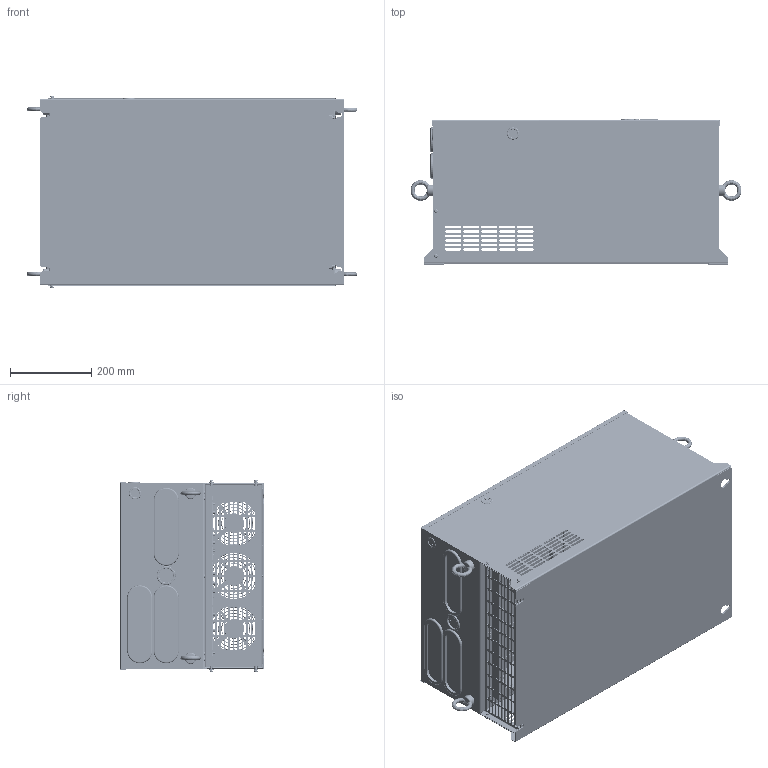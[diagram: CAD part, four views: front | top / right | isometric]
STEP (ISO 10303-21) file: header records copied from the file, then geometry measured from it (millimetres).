
FILE_DESCRIPTION((''),'2;1');
FILE_NAME('308D_ASM','2025-09-26T14:18:10',('L90915'),(''),'CREO PARAMETRIC BY PTC INC, 2018190','CREO PARAMETRIC BY PTC INC, 2018190','');
FILE_SCHEMA(('CONFIG_CONTROL_DESIGN'));
Products named in the file (67): 308MS69; 308MS97; 308MS98; 308MS72; 308MS73; 308MS75; 308MS76; 308MS79; 308MS80; 308MS81; M12; MAODING; M12-LIUJIAO; 308MS101; 308MA34_ASM; 308MS83; 308MS84; 306MS17; 308MS83-B; 308MA37-B_ASM; 308MS86; 308MS86-B; 308MA38-B_ASM; 308MS82; 308MS78; 308MA42_ASM; 308MS89; 308MS90; 308MS92; 308MS93; 308MS99; 308MS100; 308MS136; 308MS200; 308MA32_ASM; 308MI04; 308MI05; 308MA41_ASM; M4-60; LED_RED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
Assembly tree (140 placements, depth 5):
  308D_ASM
    308MA41_ASM
      308MA32_ASM
        308MA34_ASM
          308MS69
          308MS97
          308MS98
          308MS72
          308MS73
          308MS75
          308MS76  x8
          308MS79  x4
          308MS80  x2
          308MS81  x2
          M12  x2
          MAODING  x18
          M12-LIUJIAO  x2
          308MS101  x2
        308MA37-B_ASM
          308MS83
          308MS84
          306MS17
          308MS83-B
        308MA38-B_ASM
          308MS86
          308MS86-B
        308MA42_ASM
          308MS82
          308MS78
        308MS89
        308MS90
        308MS92
        308MS93
        308MS99
        308MS100
        308MS136
        308MS200
        M12-LIUJIAO  x2
        M12  x2
      308MI04
      308MI05
    308MA39_ASM
      M4-60  x12
      LED_RED
      606-27  x3
      R25  x4
      M5-12  x4
      OB50X180  x3
      M4-20
      R39
    308C-QJ_ASM
      12038  x3
      120-WZ  x3
      ADT-LOGO
      JNA380-TM  x9
      GSZ2_400S
      DIAN-ZU  x4
    308C-PCB_ASM
      308PM01-A
      302PU01
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Bounding box: 814.83 x 356.8 x 473.2 mm (x, y, z)
Volume: 6026462.7 mm3; surface area: 6258690 mm2
Topology: 280 solids, 283 shells, 17343 faces, 63134 edges, 54798 vertices
Faces by surface type: plane 10122, cylinder 6233, torus 427, bspline 310, cone 205, sphere 36, extrusion 10
Entity records: 519031 total; most frequent: CARTESIAN_POINT 124957, DIRECTION 86897, ORIENTED_EDGE 65364, VECTOR 33425, LINE 33415, EDGE_CURVE 32682, AXIS2_PLACEMENT_3D 26736, VERTEX_POINT 20479
